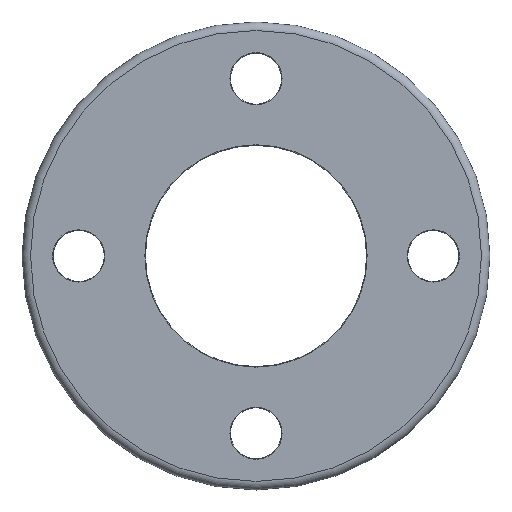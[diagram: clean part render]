
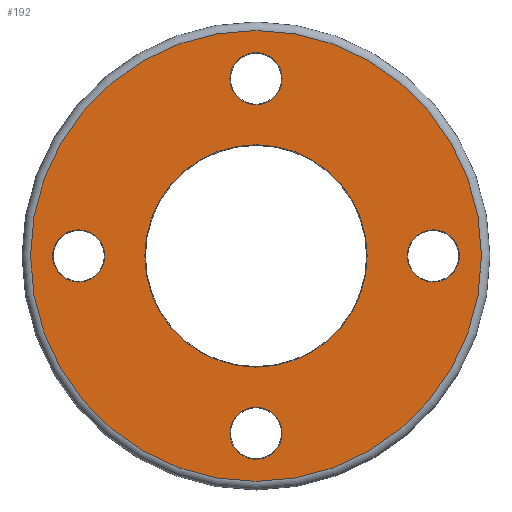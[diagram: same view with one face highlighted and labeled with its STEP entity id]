
A CAD part, top view. The second image highlights one B-rep face of the part: STEP entity #192.
In plain terms, the highlighted planar face has unit normal (0, 0, 1).
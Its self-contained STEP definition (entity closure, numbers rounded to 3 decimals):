
#21=PLANE('',#210);
#24=FACE_BOUND('',#62,.T.);
#25=FACE_BOUND('',#63,.T.);
#26=FACE_BOUND('',#64,.T.);
#27=FACE_BOUND('',#65,.T.);
#28=FACE_BOUND('',#66,.T.);
#46=FACE_OUTER_BOUND('',#61,.T.);
#61=EDGE_LOOP('',(#151));
#62=EDGE_LOOP('',(#152));
#63=EDGE_LOOP('',(#153));
#64=EDGE_LOOP('',(#154));
#65=EDGE_LOOP('',(#155));
#66=EDGE_LOOP('',(#156));
#96=CIRCLE('',#209,39.2);
#97=CIRCLE('',#211,79.5);
#98=CIRCLE('',#212,9.2);
#99=CIRCLE('',#213,9.2);
#100=CIRCLE('',#214,9.2);
#101=CIRCLE('',#215,9.2);
#114=VERTEX_POINT('',#309);
#115=VERTEX_POINT('',#312);
#116=VERTEX_POINT('',#314);
#117=VERTEX_POINT('',#316);
#118=VERTEX_POINT('',#318);
#119=VERTEX_POINT('',#320);
#132=EDGE_CURVE('',#114,#114,#96,.T.);
#133=EDGE_CURVE('',#115,#115,#97,.T.);
#134=EDGE_CURVE('',#116,#116,#98,.T.);
#135=EDGE_CURVE('',#117,#117,#99,.T.);
#136=EDGE_CURVE('',#118,#118,#100,.T.);
#137=EDGE_CURVE('',#119,#119,#101,.T.);
#151=ORIENTED_EDGE('',*,*,#133,.F.);
#152=ORIENTED_EDGE('',*,*,#134,.F.);
#153=ORIENTED_EDGE('',*,*,#135,.F.);
#154=ORIENTED_EDGE('',*,*,#136,.F.);
#155=ORIENTED_EDGE('',*,*,#137,.F.);
#156=ORIENTED_EDGE('',*,*,#132,.F.);
#192=ADVANCED_FACE('',(#46,#24,#25,#26,#27,#28),#21,.T.);
#209=AXIS2_PLACEMENT_3D('',#310,#245,#246);
#210=AXIS2_PLACEMENT_3D('',#311,#247,#248);
#211=AXIS2_PLACEMENT_3D('',#313,#249,#250);
#212=AXIS2_PLACEMENT_3D('',#315,#251,#252);
#213=AXIS2_PLACEMENT_3D('',#317,#253,#254);
#214=AXIS2_PLACEMENT_3D('',#319,#255,#256);
#215=AXIS2_PLACEMENT_3D('',#321,#257,#258);
#245=DIRECTION('center_axis',(0.,0.,1.));
#246=DIRECTION('ref_axis',(-1.,0.,0.));
#247=DIRECTION('center_axis',(0.,0.,1.));
#248=DIRECTION('ref_axis',(1.,0.,0.));
#249=DIRECTION('center_axis',(0.,0.,-1.));
#250=DIRECTION('ref_axis',(-1.,0.,0.));
#251=DIRECTION('center_axis',(0.,0.,1.));
#252=DIRECTION('ref_axis',(1.,0.,0.));
#253=DIRECTION('center_axis',(0.,0.,1.));
#254=DIRECTION('ref_axis',(-1.,0.,0.));
#255=DIRECTION('center_axis',(0.,0.,1.));
#256=DIRECTION('ref_axis',(0.,-1.,0.));
#257=DIRECTION('center_axis',(0.,0.,1.));
#258=DIRECTION('ref_axis',(0.,1.,0.));
#309=CARTESIAN_POINT('',(39.2,0.,18.));
#310=CARTESIAN_POINT('Origin',(0.,0.,18.));
#311=CARTESIAN_POINT('Origin',(0.,0.,
18.));
#312=CARTESIAN_POINT('',(79.5,0.,18.));
#313=CARTESIAN_POINT('Origin',(0.,0.,18.));
#314=CARTESIAN_POINT('',(-9.2,-62.5,18.));
#315=CARTESIAN_POINT('Origin',(0.,-62.5,18.));
#316=CARTESIAN_POINT('',(9.2,62.5,18.));
#317=CARTESIAN_POINT('Origin',(0.,62.5,18.));
#318=CARTESIAN_POINT('',(-62.5,9.2,18.));
#319=CARTESIAN_POINT('Origin',(-62.5,0.,18.));
#320=CARTESIAN_POINT('',(62.5,-9.2,18.));
#321=CARTESIAN_POINT('Origin',(62.5,0.,18.));
